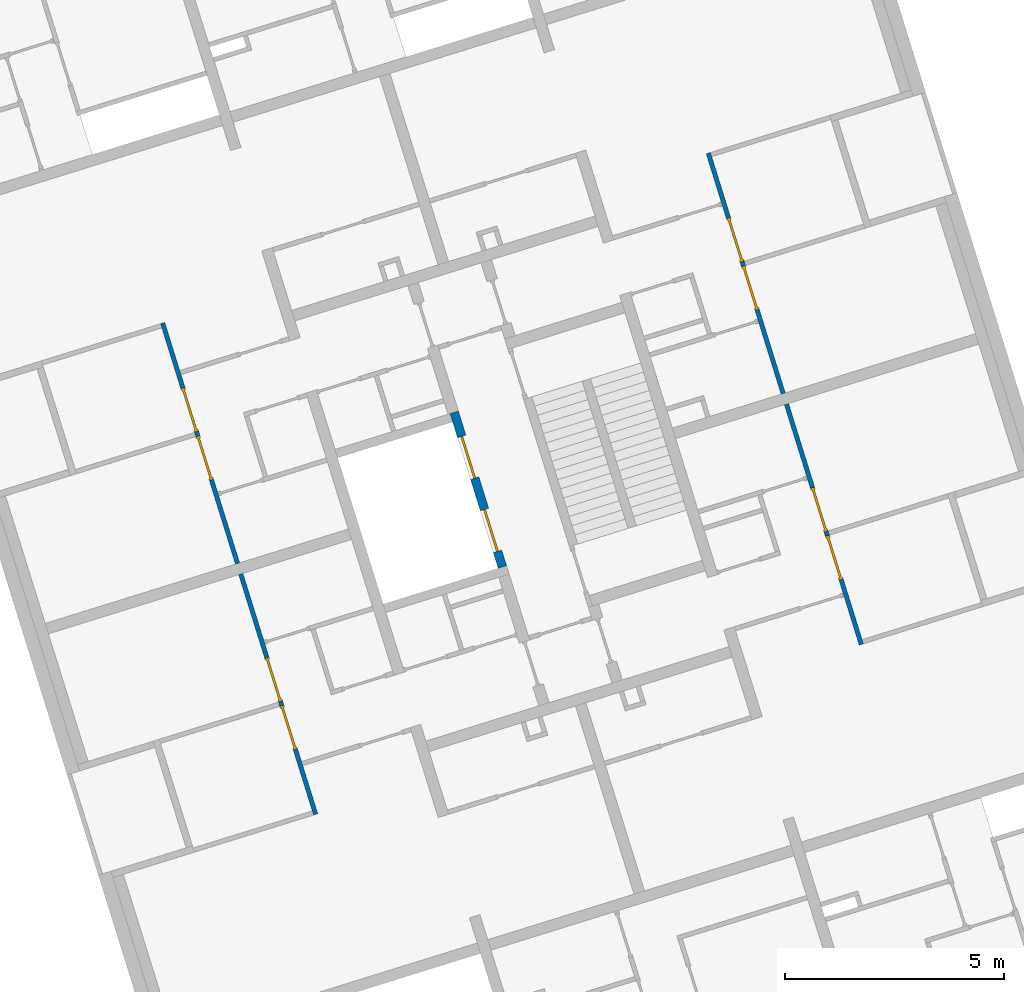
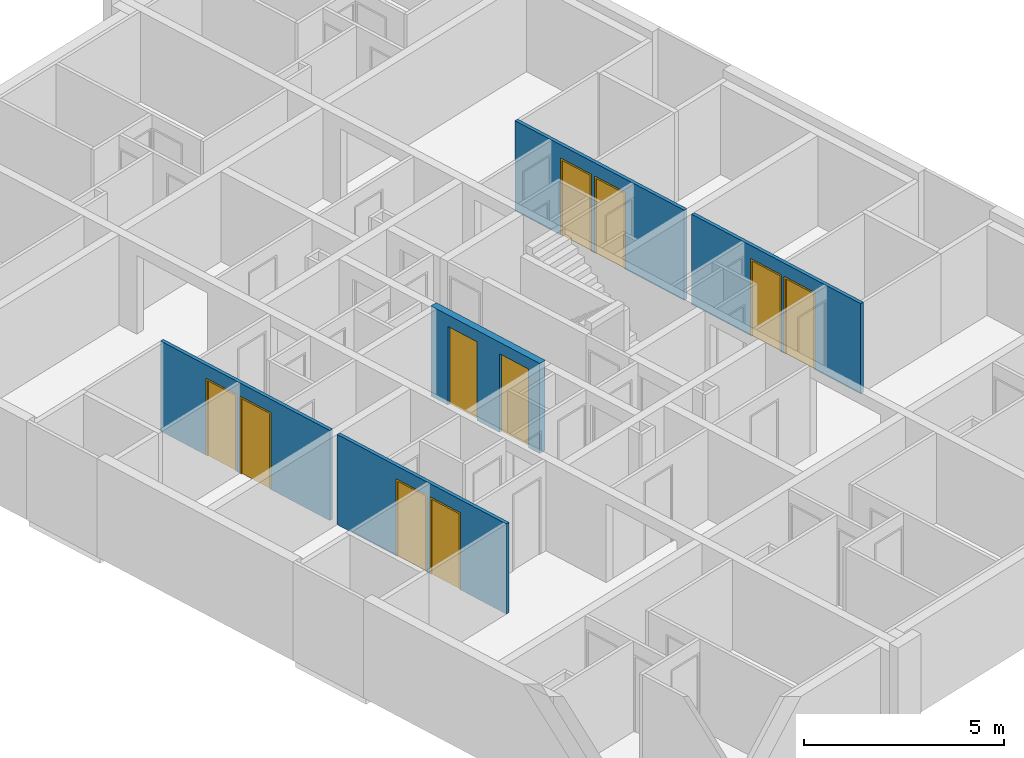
# One storey, part 11 of 12: 10 doors, 5 walls, 10 openings.
"""IFC4 building model written with IfcOpenShell, lengths in metres."""

from ifc_helpers import new_model, entity, si_unit, converted_unit, direction, frame, origin, place, context, subcontext, project, spatial, indexed_curve, outline, extrude, polygons, source, transform, mapped, material, constituent, constituent_set, type_object, type_shapes, element, fill, save


model = new_model("IFC4")

# Units and contexts
model_context = context("Model", 3, precision=1e-05, world=origin(), true_north=direction((6.12323399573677e-17, 1.0)))
body_context = subcontext(model_context, "Body", "Model", "MODEL_VIEW")
ifc_project = project(units=[si_unit("LENGTHUNIT", "METRE"), si_unit("AREAUNIT", "SQUARE_METRE"), si_unit("VOLUMEUNIT", "CUBIC_METRE"), converted_unit("PLANEANGLEUNIT", "DEGREE", entity("IfcPlaneAngleMeasure", 0.0174532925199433), si_unit("PLANEANGLEUNIT", "RADIAN"), dimensions=[0, 0, 0, 0, 0, 0, 0])], contexts=[model_context])

# Site, building, storey
site_placement = place(None, frame((13.1347999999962, 11.9886000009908, 0.0), z_axis=(0.0, 0.0, 1.0), x_axis=(0.954770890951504, 0.297342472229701, 0.0)))
site = spatial("IfcSite", under=ifc_project, at=site_placement, Name="Schiehaven", CompositionType="ELEMENT")
building_placement = place(site_placement, origin())
building = spatial("IfcBuilding", under=site, at=building_placement, Name="VORM huis", CompositionType="ELEMENT")
storey_placement = place(building_placement, frame((0.0, 0.0, 3.9)))
storey = spatial("IfcBuildingStorey", under=building, at=storey_placement, Name="01 eerste verdieping", CompositionType="ELEMENT", Elevation=3.9)

# Wall, openings, doors
ifc_material_1 = material(Name="beton_gewapend_prefab-element", Category="Miscellaneous")
wall_type_1 = type_object("IfcWallType", Name="Basic Wall:28_WA_skelet_wand 200mm_gen", PredefinedType="STANDARD")
wall_1_placement = place(storey_placement, frame((15.4750000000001, 15.3, 0.0), z_axis=(0.0, 0.0, 1.0), x_axis=(0.0, 1.0, 0.0)))
wall_1 = element("IfcWall", 1, at=wall_1_placement, inside=storey, type_object=wall_type_1, material=ifc_material_1, Name="Constructieve wand", ObjectType="Wand", PredefinedType="NOTDEFINED", context=body_context, shape_type="Tessellation", body=[
    polygons([(3.69999999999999, -0.100000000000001, 2.75), (0.0, -0.100000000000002, 2.75), (0.0, -0.100000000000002, -5.41433564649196e-16), (0.374999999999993, -0.0999999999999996, -5.41433564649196e-16), (0.374999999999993, -0.100000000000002, 2.39999999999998), (1.37499999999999, -0.100000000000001, 2.39999999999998), (1.37499999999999, -0.100000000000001, -5.41433564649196e-16), (2.125, -0.100000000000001, -5.41433564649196e-16), (2.125, -0.100000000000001, 2.39999999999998), (3.125, -0.100000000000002, 2.39999999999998), (3.12499999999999, -0.1, -5.41433564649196e-16), (3.69999999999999, -0.100000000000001, -5.41433564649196e-16), (2.16573425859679e-15, 0.0999999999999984, 2.75), (3.49999999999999, 0.0999999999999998, 2.75), (3.69999999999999, 0.0999999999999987, 2.75), (3.69999999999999, 0.0999999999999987, -5.41433564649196e-16), (3.49999999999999, 0.0999999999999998, 0.0), (3.125, 0.0999999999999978, -5.41433564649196e-16), (3.125, 0.0999999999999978, 2.39999999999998), (2.125, 0.0999999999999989, 2.39999999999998), (2.125, 0.0999999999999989, -5.41433564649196e-16), (1.37499999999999, 0.100000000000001, -5.41433564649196e-16), (1.37499999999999, 0.100000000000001, 2.39999999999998), (0.374999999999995, 0.0999999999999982, 2.39999999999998), (0.374999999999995, 0.0999999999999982, -5.41433564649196e-16), (0.0, 0.0999999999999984, -5.41433564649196e-16)], [[[1, 2, 3, 4, 5, 6, 7, 8, 9, 10, 11, 12]], [[13, 14, 15, 16, 17, 18, 19, 20, 21, 22, 23, 24, 25, 26]], [[3, 26, 25, 4]], [[2, 1, 15, 14, 13]], [[3, 2, 13, 26]], [[1, 12, 16, 15]], [[6, 23, 22, 7]], [[24, 5, 4, 25]], [[23, 6, 5, 24]], [[10, 19, 18, 11]], [[20, 9, 8, 21]], [[19, 10, 9, 20]], [[7, 22, 21, 8]], [[16, 12, 11, 18, 17]]], closed=True),
])
opening_1_placement = place(wall_1_placement, frame((-15.3, 15.4750000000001, 0.0), z_axis=(0.0, 0.0, 1.0), x_axis=(0.0, -1.0, 0.0)))
opening_1 = element("IfcOpeningElement", 2, at=opening_1_placement, cuts=wall_1, Name="Brandweerlift", PredefinedType="OPENING", context=body_context, shape_type="SweptSolid", body=[
    extrude(outline(indexed_curve([(-1.19999999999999, -0.499999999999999), (1.19999999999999, -0.499999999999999), (1.19999999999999, 0.500000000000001), (-1.19999999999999, 0.500000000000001), (-1.19999999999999, -0.499999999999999)], self_intersect=False)), frame((15.7436720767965, 16.175, 1.19999999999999), z_axis=(-1.0, 0.0, 0.0), x_axis=(0.0, 0.0, -1.0)), (0.0, 0.0, 1.0), 0.756310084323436),
])
opening_2_placement = place(wall_1_placement, frame((-15.3, 15.4750000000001, 0.0), z_axis=(0.0, 0.0, 1.0), x_axis=(0.0, -1.0, 0.0)))
opening_2 = element("IfcOpeningElement", 3, at=opening_2_placement, cuts=wall_1, Name="Brandweerlift", PredefinedType="OPENING", context=body_context, shape_type="SweptSolid", body=[
    extrude(outline(indexed_curve([(-1.19999999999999, -0.500000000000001), (1.19999999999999, -0.500000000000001), (1.19999999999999, 0.499999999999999), (-1.19999999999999, 0.499999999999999), (-1.19999999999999, -0.500000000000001)], self_intersect=False)), frame((15.7436720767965, 17.925, 1.19999999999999), z_axis=(-1.0, 0.0, 0.0), x_axis=(0.0, 0.0, -1.0)), (0.0, 0.0, 1.0), 0.756310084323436),
])
ifc_material_2 = material(Name="metaal_aluminium_ntb", Category="Miscellaneous")
door_type_1 = type_object("IfcDoorType", Name="66_WI_liftdeur:brandweerlift - tweezijdig toegankelijk", OperationType="NOTDEFINED", PredefinedType="DOOR", material=ifc_material_2)
shared_shape_1 = source(origin(), body_context, "Body", "SweptSolid", [
    extrude(outline(indexed_curve([(-0.0250000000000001, -0.25), (0.0249999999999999, -0.25), (0.0250000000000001, 0.25), (-0.0249999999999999, 0.25), (-0.0250000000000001, -0.25)], self_intersect=False)), frame((0.250000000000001, 0.487638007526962, 0.0), z_axis=(0.0, 0.0, 1.0), x_axis=(0.0, 1.0, 0.0)), (0.0, 0.0, 1.0), 2.39999999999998),
    extrude(outline(indexed_curve([(-0.0250000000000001, -0.25), (0.0249999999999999, -0.25), (0.0250000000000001, 0.25), (-0.0249999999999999, 0.25), (-0.0250000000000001, -0.25)], self_intersect=False)), frame((0.750000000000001, 0.48763800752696, 0.0), z_axis=(0.0, 0.0, 1.0), x_axis=(0.0, 1.0, 0.0)), (0.0, 0.0, 1.0), 2.39999999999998),
])
type_shapes(door_type_1, [shared_shape_1])
door_1_placement = place(opening_1_placement, frame((14.9873619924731, 16.675, 0.0), z_axis=(0.0, 0.0, 1.0), x_axis=(0.0, -1.0, 0.0)))
door_1 = element("IfcDoor", 4, at=door_1_placement, inside=storey, type_object=door_type_1, material=ifc_material_2, Name="Brandweerlift", ObjectType="Transport", OperationType="NOTDEFINED", OverallHeight=2.39999999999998, OverallWidth=1.0, PredefinedType="DOOR", context=body_context, shape_type="MappedRepresentation", body=[
    mapped(shared_shape_1, transform((0.0, 0.0, 0.0), scale=1.0)),
])
fill(opening_1, door_1)
door_2_placement = place(opening_2_placement, frame((14.9873619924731, 18.425, 0.0), z_axis=(0.0, 0.0, 1.0), x_axis=(0.0, -1.0, 0.0)))
door_2 = element("IfcDoor", 5, at=door_2_placement, inside=storey, type_object=door_type_1, material=ifc_material_2, Name="Brandweerlift", ObjectType="Transport", OperationType="NOTDEFINED", OverallHeight=2.39999999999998, OverallWidth=1.0, PredefinedType="DOOR", context=body_context, shape_type="MappedRepresentation", body=[
    mapped(shared_shape_1, transform((0.0, 0.0, 0.0), scale=1.0)),
])
fill(opening_2, door_2)

ifc_material_3 = material(Name="ntb_ntb_ntb", Category="Miscellaneous")
wall_type_2 = type_object("IfcWallType", Name="Basic Wall:22_WA_afbouw_binnenwand 100mm_gen", PredefinedType="STANDARD")
wall_2_placement = place(storey_placement, frame((9.72500000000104, 16.925, 0.0), z_axis=(0.0, 0.0, 1.0), x_axis=(0.0, -1.0, 0.0)))
wall_2 = element("IfcWall", 6, at=wall_2_placement, inside=storey, type_object=wall_type_2, material=ifc_material_3, Name="Binnenwand", ObjectType="Wand", PredefinedType="NOTDEFINED", context=body_context, shape_type="Tessellation", body=[
    polygons([(3.04999999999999, -0.0499999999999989, -5.41433564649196e-16), (3.15, -0.0499999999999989, -5.41433564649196e-16), (3.15, -0.0499999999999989, 2.34999999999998), (4.2, -0.0499999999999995, 2.34999999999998), (4.2, -0.0499999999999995, -5.41433564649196e-16), (5.65, -0.049999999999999, 0.0), (5.75, -0.0499999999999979, -5.41433564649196e-16), (5.75, -0.0499999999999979, 2.75), (5.65, -0.049999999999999, 2.75), (3.15, -0.0499999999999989, 2.75), (3.05, -0.0499999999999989, 2.75), (2.16573425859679e-15, -0.0499999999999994, 2.75), (2.16573425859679e-15, -0.0499999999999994, -5.41433564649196e-16), (2.0, -0.0499999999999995, -5.41433564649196e-16), (2.0, -0.0499999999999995, 2.34999999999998), (3.04999999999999, -0.0499999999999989, 2.34999999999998), (3.15, 0.05, 2.34999999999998), (3.14999999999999, 0.05, -5.41433564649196e-16), (3.04999999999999, 0.0500000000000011, -5.41433564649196e-16), (3.04999999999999, 0.0500000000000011, 2.34999999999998), (1.99999999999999, 0.0500000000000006, 2.34999999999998), (1.99999999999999, 0.0500000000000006, -5.41433564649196e-16), (1.70000000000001, 0.0500000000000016, 0.0), (1.60000000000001, 0.0500000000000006, 0.0), (0.0, 0.0500000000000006, -5.41433564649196e-16), (0.0, 0.0500000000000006, 2.75), (1.60000000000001, 0.0500000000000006, 2.75), (1.70000000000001, 0.0500000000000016, 2.75), (4.50000000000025, 0.0500000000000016, 2.75), (4.60000000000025, 0.0500000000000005, 2.75), (5.75, 0.0499999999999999, 2.75), (5.75, 0.0499999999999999, -5.41433564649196e-16), (4.60000000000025, 0.0500000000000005, 0.0), (4.50000000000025, 0.0500000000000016, 0.0), (4.2, 0.0500000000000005, -5.41433564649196e-16), (4.2, 0.0500000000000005, 2.34999999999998)], [[[1, 2, 3, 4, 5, 6, 7, 8, 9, 10, 11, 12, 13, 14, 15, 16]], [[17, 18, 19, 20, 21, 22, 23, 24, 25, 26, 27, 28, 29, 30, 31, 32, 33, 34, 35, 36]], [[13, 25, 24, 23, 22, 14]], [[12, 11, 10, 9, 8, 31, 30, 29, 28, 27, 26]], [[13, 12, 26, 25]], [[16, 20, 19, 1]], [[21, 15, 14, 22]], [[20, 16, 15, 21]], [[5, 4, 36, 35]], [[3, 2, 18, 17]], [[4, 3, 17, 36]], [[8, 7, 32, 31]], [[19, 18, 2, 1]], [[35, 34, 33, 32, 7, 6, 5]]], closed=True),
])
opening_3_placement = place(wall_2_placement, frame((2.0, -0.0500000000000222, 0.0)))
opening_3 = element("IfcOpeningElement", 7, at=opening_3_placement, cuts=wall_2, Name="Binnendeur", PredefinedType="OPENING", context=body_context, shape_type="SweptSolid", body=[
    extrude(outline(indexed_curve([(2.34999999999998, 1.05), (0.0, 1.05), (0.0, 1.35358391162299e-15), (2.34999999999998, 1.35358391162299e-15), (2.34999999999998, 1.05)], self_intersect=False)), frame((0.0, 0.0, 0.0), z_axis=(0.0, 1.0, 0.0), x_axis=(0.0, 0.0, 1.0)), (0.0, 0.0, 1.0), 0.1),
])
opening_4_placement = place(wall_2_placement, frame((3.15, -0.050000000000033, 0.0)))
opening_4 = element("IfcOpeningElement", 8, at=opening_4_placement, cuts=wall_2, Name="Binnendeur", PredefinedType="OPENING", context=body_context, shape_type="SweptSolid", body=[
    extrude(outline(indexed_curve([(2.34999999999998, 1.05), (0.0, 1.05), (0.0, 1.08286712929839e-15), (2.34999999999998, 1.08286712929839e-15), (2.34999999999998, 1.05)], self_intersect=False)), frame((0.0, 0.0, 0.0), z_axis=(0.0, 1.0, 0.0), x_axis=(0.0, 0.0, 1.0)), (0.0, 0.0, 1.0), 0.1),
])
ifc_material_4 = material(Name="PD_a_binnenwandopeningen", Category="Miscellaneous")
ifc_constituent_1 = constituent(ifc_material_4, Name="PD_a_binnenwandopeningen", Category="Miscellaneous")
ifc_constituent_2 = constituent(ifc_material_2, Name="metaal_aluminium_ntb", Category="Miscellaneous")
ifc_constituent_set_1 = constituent_set(constituents=[ifc_constituent_1, ifc_constituent_2])
door_type_2 = type_object("IfcDoorType", Name="32_DO_binnendeur enkel:binnendeur", OperationType="REVOLVING", PredefinedType="DOOR")
shared_shape_2 = source(origin(), body_context, "Body", "SweptSolid", [
    extrude(outline(indexed_curve([(-1.16249999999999, -0.525000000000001), (1.18749999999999, -0.525), (1.18749999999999, 0.525), (-1.16249999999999, 0.525), (-1.16249999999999, 0.475), (1.13749999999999, 0.475), (1.13749999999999, -0.475), (-1.16249999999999, -0.475), (-1.16249999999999, -0.525000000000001)], self_intersect=False)), frame((0.525000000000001, 0.0, 1.16249999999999), z_axis=(0.0, 1.0, 0.0), x_axis=(0.0, 0.0, 1.0)), (0.0, 0.0, 1.0), 0.1),
    extrude(outline(indexed_curve([(-0.025, -0.475), (0.025, -0.475), (0.025, 0.475), (-0.025, 0.475), (-0.025, -0.475)], self_intersect=False)), frame((0.525000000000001, 0.0499999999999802, 0.0), z_axis=(0.0, 0.0, 1.0), x_axis=(0.0, 1.0, 0.0)), (0.0, 0.0, 1.0), 2.29999999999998),
])
type_shapes(door_type_2, [shared_shape_2])
door_3_placement = place(opening_3_placement, origin())
door_3 = element("IfcDoor", 9, at=door_3_placement, inside=storey, type_object=door_type_2, material=ifc_constituent_set_1, Name="Binnendeur", ObjectType="Deur", OperationType="REVOLVING", OverallHeight=2.34999999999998, OverallWidth=1.05, PredefinedType="DOOR", context=body_context, shape_type="MappedRepresentation", body=[
    mapped(shared_shape_2, transform((0.0, 0.0, 0.0), scale=1.0)),
])
fill(opening_3, door_3)
ifc_constituent_3 = constituent(ifc_material_4, Name="PD_a_binnenwandopeningen", Category="Miscellaneous")
ifc_constituent_4 = constituent(ifc_material_2, Name="metaal_aluminium_ntb", Category="Miscellaneous")
ifc_constituent_set_2 = constituent_set(constituents=[ifc_constituent_3, ifc_constituent_4])
door_4_placement = place(opening_4_placement, origin())
door_4 = element("IfcDoor", 10, at=door_4_placement, inside=storey, type_object=door_type_2, material=ifc_constituent_set_2, Name="Binnendeur", ObjectType="Deur", OperationType="REVOLVING", OverallHeight=2.34999999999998, OverallWidth=1.05, PredefinedType="DOOR", context=body_context, shape_type="MappedRepresentation", body=[
    mapped(shared_shape_2, transform((0.0, 0.0, 0.0), scale=1.0)),
])
fill(opening_4, door_4)

wall_3_placement = place(storey_placement, frame((22.7749999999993, 16.925, 0.0), z_axis=(0.0, 0.0, 1.0), x_axis=(0.0, -1.0, 0.0)))
wall_3 = element("IfcWall", 11, at=wall_3_placement, inside=storey, type_object=wall_type_2, material=ifc_material_3, Name="Binnenwand", ObjectType="Wand", PredefinedType="NOTDEFINED", context=body_context, shape_type="Tessellation", body=[
    polygons([(3.04999999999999, -0.0499999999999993, -5.41433564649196e-16), (3.15, -0.0500000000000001, -5.41433564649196e-16), (3.15, -0.0500000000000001, 2.34999999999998), (4.2, -0.0499999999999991, 2.34999999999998), (4.2, -0.0499999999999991, -5.41433564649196e-16), (4.50000000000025, -0.0500000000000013, 0.0), (4.60000000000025, -0.0500000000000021, 0.0), (5.75, -0.0500000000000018, -5.41433564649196e-16), (5.75, -0.0500000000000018, 2.75), (4.60000000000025, -0.0500000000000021, 2.75), (4.50000000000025, -0.0500000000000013, 2.75), (1.8, -0.0499999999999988, 2.75), (1.70000000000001, -0.0500000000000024, 2.75), (-2.16573425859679e-15, -0.0499999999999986, 2.75), (-2.16573425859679e-15, -0.0499999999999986, -5.41433564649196e-16), (1.70000000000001, -0.0500000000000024, 0.0), (1.8, -0.0499999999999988, 0.0), (1.99999999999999, -0.0500000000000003, -5.41433564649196e-16), (1.99999999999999, -0.0500000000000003, 2.34999999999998), (3.04999999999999, -0.0499999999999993, 2.34999999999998), (3.15, 0.0499999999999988, 2.34999999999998), (3.15, 0.0499999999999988, -5.41433564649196e-16), (3.04999999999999, 0.0499999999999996, -5.41433564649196e-16), (3.04999999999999, 0.0499999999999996, 2.34999999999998), (1.99999999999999, 0.0499999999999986, 2.34999999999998), (1.99999999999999, 0.0499999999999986, -5.41433564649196e-16), (-2.16573425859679e-15, 0.0500000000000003, -5.41433564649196e-16), (-2.16573425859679e-15, 0.0500000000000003, 2.75), (3.05, 0.0499999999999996, 2.75), (3.15, 0.0499999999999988, 2.75), (5.65, 0.0499999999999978, 2.75), (5.75, 0.0499999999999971, 2.75), (5.74999999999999, 0.0499999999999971, -5.41433564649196e-16), (5.65, 0.0499999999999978, 0.0), (4.2, 0.0499999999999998, -5.41433564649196e-16), (4.2, 0.0499999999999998, 2.34999999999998)], [[[1, 2, 3, 4, 5, 6, 7, 8, 9, 10, 11, 12, 13, 14, 15, 16, 17, 18, 19, 20]], [[21, 22, 23, 24, 25, 26, 27, 28, 29, 30, 31, 32, 33, 34, 35, 36]], [[15, 27, 26, 18, 17, 16]], [[14, 13, 12, 11, 10, 9, 32, 31, 30, 29, 28]], [[15, 14, 28, 27]], [[20, 24, 23, 1]], [[25, 19, 18, 26]], [[24, 20, 19, 25]], [[5, 4, 36, 35]], [[3, 2, 22, 21]], [[4, 3, 21, 36]], [[9, 8, 33, 32]], [[23, 22, 2, 1]], [[35, 34, 33, 8, 7, 6, 5]]], closed=True),
])
opening_5_placement = place(wall_3_placement, frame((3.04999999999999, 0.0500000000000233, 0.0)))
opening_5 = element("IfcOpeningElement", 12, at=opening_5_placement, cuts=wall_3, Name="Binnendeur", PredefinedType="OPENING", context=body_context, shape_type="SweptSolid", body=[
    extrude(outline(indexed_curve([(2.34999999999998, 1.08286712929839e-15), (2.34999999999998, 1.05), (0.0, 1.05), (0.0, 1.08286712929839e-15), (2.34999999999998, 1.08286712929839e-15)], self_intersect=False)), frame((0.0, 0.0, 0.0), z_axis=(0.0, -1.0, 0.0), x_axis=(0.0, 0.0, 1.0)), (0.0, 0.0, 1.0), 0.1),
])
opening_6_placement = place(wall_3_placement, frame((4.2, 0.0500000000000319, 0.0)))
opening_6 = element("IfcOpeningElement", 13, at=opening_6_placement, cuts=wall_3, Name="Binnendeur", PredefinedType="OPENING", context=body_context, shape_type="SweptSolid", body=[
    extrude(outline(indexed_curve([(2.34999999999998, 1.08286712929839e-15), (2.34999999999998, 1.05), (0.0, 1.05), (0.0, 1.08286712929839e-15), (2.34999999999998, 1.08286712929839e-15)], self_intersect=False)), frame((0.0, 0.0, 0.0), z_axis=(0.0, -1.0, 0.0), x_axis=(0.0, 0.0, 1.0)), (0.0, 0.0, 1.0), 0.1),
])
ifc_constituent_5 = constituent(ifc_material_4, Name="PD_a_binnenwandopeningen", Category="Miscellaneous")
ifc_constituent_6 = constituent(ifc_material_2, Name="metaal_aluminium_ntb", Category="Miscellaneous")
ifc_constituent_set_3 = constituent_set(constituents=[ifc_constituent_5, ifc_constituent_6])
shared_shape_3 = source(origin(), body_context, "Body", "SweptSolid", [
    extrude(outline(indexed_curve([(0.475, -1.16249999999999), (0.525, -1.16249999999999), (0.525, 1.18749999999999), (-0.525, 1.18749999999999), (-0.525, -1.16249999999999), (-0.475, -1.16249999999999), (-0.475, 1.13749999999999), (0.475, 1.13749999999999), (0.475, -1.16249999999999)], self_intersect=False)), frame((0.525000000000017, 0.100000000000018, 1.16249999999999), z_axis=(0.0, -1.0, 0.0), x_axis=(1.0, 0.0, 0.0)), (0.0, 0.0, 1.0), 0.1),
    extrude(outline(indexed_curve([(-0.475, -0.025), (0.475, -0.025), (0.475, 0.025), (-0.475, 0.025), (-0.475, -0.025)], self_intersect=False)), frame((0.525000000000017, 0.0499999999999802, 0.0)), (0.0, 0.0, 1.0), 2.29999999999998),
])
door_5_placement = place(opening_5_placement, frame((0.0, 0.0, 0.0), z_axis=(0.0, 0.0, 1.0), x_axis=(-1.0, 0.0, 0.0)))
door_5 = element("IfcDoor", 14, at=door_5_placement, inside=storey, type_object=door_type_2, material=ifc_constituent_set_3, Name="Binnendeur", ObjectType="Deur", OperationType="REVOLVING", OverallHeight=2.34999999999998, OverallWidth=1.05, PredefinedType="DOOR", context=body_context, shape_type="MappedRepresentation", body=[
    mapped(shared_shape_3, transform((0.0, 0.0, 0.0), scale=1.0)),
])
fill(opening_5, door_5)
ifc_constituent_7 = constituent(ifc_material_4, Name="PD_a_binnenwandopeningen", Category="Miscellaneous")
ifc_constituent_8 = constituent(ifc_material_2, Name="metaal_aluminium_ntb", Category="Miscellaneous")
ifc_constituent_set_4 = constituent_set(constituents=[ifc_constituent_7, ifc_constituent_8])
door_6_placement = place(opening_6_placement, frame((0.0, 0.0, 0.0), z_axis=(0.0, 0.0, 1.0), x_axis=(-1.0, 0.0, 0.0)))
door_6 = element("IfcDoor", 15, at=door_6_placement, inside=storey, type_object=door_type_2, material=ifc_constituent_set_4, Name="Binnendeur", ObjectType="Deur", OperationType="REVOLVING", OverallHeight=2.34999999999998, OverallWidth=1.05, PredefinedType="DOOR", context=body_context, shape_type="MappedRepresentation", body=[
    mapped(shared_shape_3, transform((0.0, 0.0, 0.0), scale=1.0)),
])
fill(opening_6, door_6)

wall_4_placement = place(storey_placement, frame((22.7749999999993, 17.175, 0.0), z_axis=(0.0, 0.0, 1.0), x_axis=(0.0, 1.0, 0.0)))
wall_4 = element("IfcWall", 16, at=wall_4_placement, inside=storey, type_object=wall_type_2, material=ifc_material_3, Name="Binnenwand", ObjectType="Wand", PredefinedType="NOTDEFINED", context=body_context, shape_type="Tessellation", body=[
    polygons([(3.05, -0.0499999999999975, -5.41433564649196e-16), (3.15, -0.0499999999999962, -5.41433564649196e-16), (3.15, -0.0499999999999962, 2.34999999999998), (4.2, -0.0499999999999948, 2.34999999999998), (4.2, -0.0499999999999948, -5.41433564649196e-16), (5.65, -0.0499999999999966, 0.0), (5.75, -0.0499999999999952, -5.41433564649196e-16), (5.75, -0.0499999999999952, 2.75), (5.65, -0.0499999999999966, 2.75), (3.15, -0.0499999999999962, 2.75), (3.05, -0.0499999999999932, 2.75), (-2.16573425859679e-15, -0.049999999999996, 2.75), (-2.16573425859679e-15, -0.049999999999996, -5.41433564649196e-16), (1.99999999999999, -0.0499999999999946, -5.41433564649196e-16), (1.99999999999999, -0.0499999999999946, 2.34999999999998), (3.05, -0.0499999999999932, 2.34999999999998), (3.15, 0.0500000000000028, 2.34999999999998), (3.15, 0.0500000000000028, -5.41433564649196e-16), (3.05, 0.0500000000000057, -5.41433564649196e-16), (3.05, 0.0500000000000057, 2.34999999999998), (1.99999999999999, 0.0500000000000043, 2.34999999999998), (1.99999999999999, 0.0500000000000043, -5.41433564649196e-16), (1.80000000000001, 0.0500000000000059, 0.0), (1.70000000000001, 0.0500000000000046, 0.0), (2.16573425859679e-15, 0.0500000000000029, -5.41433564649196e-16), (2.16573425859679e-15, 0.0500000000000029, 2.75), (1.70000000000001, 0.0500000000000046, 2.75), (1.80000000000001, 0.0500000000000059, 2.75), (4.50000000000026, 0.0500000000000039, 2.75), (4.60000000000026, 0.0500000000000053, 2.75), (5.75, 0.0500000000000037, 2.75), (5.75, 0.0500000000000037, -5.41433564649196e-16), (4.60000000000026, 0.0500000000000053, 0.0), (4.50000000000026, 0.0500000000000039, 0.0), (4.2, 0.0500000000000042, -5.41433564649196e-16), (4.2, 0.0500000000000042, 2.34999999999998)], [[[1, 2, 3, 4, 5, 6, 7, 8, 9, 10, 11, 12, 13, 14, 15, 16]], [[17, 18, 19, 20, 21, 22, 23, 24, 25, 26, 27, 28, 29, 30, 31, 32, 33, 34, 35, 36]], [[13, 25, 24, 23, 22, 14]], [[12, 11, 10, 9, 8, 31, 30, 29, 28, 27, 26]], [[13, 12, 26, 25]], [[16, 20, 19, 1]], [[21, 15, 14, 22]], [[20, 16, 15, 21]], [[5, 4, 36, 35]], [[3, 2, 18, 17]], [[4, 3, 17, 36]], [[8, 7, 32, 31]], [[19, 18, 2, 1]], [[35, 34, 33, 32, 7, 6, 5]]], closed=True),
])
opening_7_placement = place(wall_4_placement, frame((2.0, -0.0500000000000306, 0.0)))
opening_7 = element("IfcOpeningElement", 17, at=opening_7_placement, cuts=wall_4, Name="Binnendeur", PredefinedType="OPENING", context=body_context, shape_type="SweptSolid", body=[
    extrude(outline(indexed_curve([(2.34999999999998, 1.05), (0.0, 1.05), (0.0, -4.04341507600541e-29), (2.34999999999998, -4.04341507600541e-29), (2.34999999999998, 1.05)], self_intersect=False)), frame((0.0, 0.0, 0.0), z_axis=(0.0, 1.0, 0.0), x_axis=(0.0, 0.0, 1.0)), (0.0, 0.0, 1.0), 0.1),
])
opening_8_placement = place(wall_4_placement, frame((3.15, -0.0500000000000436, 0.0)))
opening_8 = element("IfcOpeningElement", 18, at=opening_8_placement, cuts=wall_4, Name="Binnendeur", PredefinedType="OPENING", context=body_context, shape_type="SweptSolid", body=[
    extrude(outline(indexed_curve([(2.34999999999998, 1.05), (0.0, 1.05), (0.0, -4.03182935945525e-29), (2.34999999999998, -4.03182935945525e-29), (2.34999999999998, 1.05)], self_intersect=False)), frame((0.0, 0.0, 0.0), z_axis=(0.0, 1.0, 0.0), x_axis=(0.0, 0.0, 1.0)), (0.0, 0.0, 1.0), 0.1),
])
ifc_constituent_9 = constituent(ifc_material_4, Name="PD_a_binnenwandopeningen", Category="Miscellaneous")
ifc_constituent_10 = constituent(ifc_material_2, Name="metaal_aluminium_ntb", Category="Miscellaneous")
ifc_constituent_set_5 = constituent_set(constituents=[ifc_constituent_9, ifc_constituent_10])
door_7_placement = place(opening_7_placement, origin())
door_7 = element("IfcDoor", 19, at=door_7_placement, inside=storey, type_object=door_type_2, material=ifc_constituent_set_5, Name="Binnendeur", ObjectType="Deur", OperationType="REVOLVING", OverallHeight=2.34999999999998, OverallWidth=1.05, PredefinedType="DOOR", context=body_context, shape_type="MappedRepresentation", body=[
    mapped(shared_shape_2, transform((0.0, 0.0, 0.0), scale=1.0)),
])
fill(opening_7, door_7)
ifc_constituent_11 = constituent(ifc_material_4, Name="PD_a_binnenwandopeningen", Category="Miscellaneous")
ifc_constituent_12 = constituent(ifc_material_2, Name="metaal_aluminium_ntb", Category="Miscellaneous")
ifc_constituent_set_6 = constituent_set(constituents=[ifc_constituent_11, ifc_constituent_12])
door_8_placement = place(opening_8_placement, origin())
door_8 = element("IfcDoor", 20, at=door_8_placement, inside=storey, type_object=door_type_2, material=ifc_constituent_set_6, Name="Binnendeur", ObjectType="Deur", OperationType="REVOLVING", OverallHeight=2.34999999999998, OverallWidth=1.05, PredefinedType="DOOR", context=body_context, shape_type="MappedRepresentation", body=[
    mapped(shared_shape_2, transform((0.0, 0.0, 0.0), scale=1.0)),
])
fill(opening_8, door_8)

wall_5_placement = place(storey_placement, frame((9.72500000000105, 17.175, 0.0), z_axis=(0.0, 0.0, 1.0), x_axis=(0.0, 1.0, 0.0)))
wall_5 = element("IfcWall", 21, at=wall_5_placement, inside=storey, type_object=wall_type_2, material=ifc_material_3, Name="Binnenwand", ObjectType="Wand", PredefinedType="NOTDEFINED", context=body_context, shape_type="Tessellation", body=[
    polygons([(3.05, -0.0500000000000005, -5.41433564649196e-16), (3.14999999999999, -0.0500000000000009, -5.41433564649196e-16), (3.14999999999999, -0.0500000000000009, 2.34999999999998), (4.2, -0.0500000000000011, 2.34999999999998), (4.2, -0.0500000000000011, -5.41433564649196e-16), (4.50000000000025, -0.0500000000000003, 0.0), (4.60000000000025, -0.0500000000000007, 0.0), (5.74999999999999, -0.0500000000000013, -5.41433564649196e-16), (5.74999999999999, -0.0500000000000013, 2.75), (4.60000000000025, -0.0500000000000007, 2.75), (4.50000000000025, -0.0500000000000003, 2.75), (1.7, -0.0500000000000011, 2.75), (1.6, -0.0500000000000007, 2.75), (-2.16573425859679e-15, -0.0500000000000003, 2.75), (-2.16573425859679e-15, -0.0500000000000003, -5.41433564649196e-16), (1.6, -0.0500000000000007, 0.0), (1.7, -0.0500000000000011, 0.0), (1.99999999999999, -0.0500000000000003, -5.41433564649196e-16), (1.99999999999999, -0.0500000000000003, 2.34999999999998), (3.04999999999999, -0.0500000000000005, 2.34999999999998), (3.15, 0.0500000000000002, 2.34999999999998), (3.15, 0.0500000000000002, -5.41433564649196e-16), (3.04999999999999, 0.0500000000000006, -5.41433564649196e-16), (3.04999999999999, 0.0500000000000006, 2.34999999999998), (1.99999999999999, 0.0499999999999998, 2.34999999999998), (1.99999999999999, 0.0499999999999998, -5.41433564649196e-16), (0.0, 0.0499999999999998, -5.41433564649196e-16), (0.0, 0.0499999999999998, 2.75), (3.05, 0.0500000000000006, 2.75), (3.15, 0.0500000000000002, 2.75), (5.65, 0.0500000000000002, 2.75), (5.74999999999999, 0.0500000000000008, 2.75), (5.74999999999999, 0.0500000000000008, -5.41433564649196e-16), (5.65, 0.0500000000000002, 0.0), (4.2, 0.05, -5.41433564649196e-16), (4.2, 0.05, 2.34999999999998)], [[[1, 2, 3, 4, 5, 6, 7, 8, 9, 10, 11, 12, 13, 14, 15, 16, 17, 18, 19, 20]], [[21, 22, 23, 24, 25, 26, 27, 28, 29, 30, 31, 32, 33, 34, 35, 36]], [[15, 27, 26, 18, 17, 16]], [[14, 13, 12, 11, 10, 9, 32, 31, 30, 29, 28]], [[15, 14, 28, 27]], [[20, 24, 23, 1]], [[25, 19, 18, 26]], [[24, 20, 19, 25]], [[5, 4, 36, 35]], [[3, 2, 22, 21]], [[4, 3, 21, 36]], [[9, 8, 33, 32]], [[23, 22, 2, 1]], [[35, 34, 33, 8, 7, 6, 5]]], closed=True),
])
opening_9_placement = place(wall_5_placement, frame((3.04999999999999, 0.0500000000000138, 0.0)))
opening_9 = element("IfcOpeningElement", 22, at=opening_9_placement, cuts=wall_5, Name="Binnendeur", PredefinedType="OPENING", context=body_context, shape_type="SweptSolid", body=[
    extrude(outline(indexed_curve([(2.34999999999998, 9.53057015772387e-31), (2.34999999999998, 1.05), (0.0, 1.05), (0.0, 9.53057015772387e-31), (2.34999999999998, 9.53057015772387e-31)], self_intersect=False)), frame((0.0, 0.0, 0.0), z_axis=(0.0, -1.0, 0.0), x_axis=(0.0, 0.0, 1.0)), (0.0, 0.0, 1.0), 0.1),
])
opening_10_placement = place(wall_5_placement, frame((4.2, 0.0500000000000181, 0.0)))
opening_10 = element("IfcOpeningElement", 23, at=opening_10_placement, cuts=wall_5, Name="Binnendeur", PredefinedType="OPENING", context=body_context, shape_type="SweptSolid", body=[
    extrude(outline(indexed_curve([(2.34999999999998, 9.53057015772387e-31), (2.34999999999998, 1.05), (0.0, 1.05), (0.0, 9.53057015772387e-31), (2.34999999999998, 9.53057015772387e-31)], self_intersect=False)), frame((0.0, 0.0, 0.0), z_axis=(0.0, -1.0, 0.0), x_axis=(0.0, 0.0, 1.0)), (0.0, 0.0, 1.0), 0.1),
])
ifc_constituent_13 = constituent(ifc_material_4, Name="PD_a_binnenwandopeningen", Category="Miscellaneous")
ifc_constituent_14 = constituent(ifc_material_2, Name="metaal_aluminium_ntb", Category="Miscellaneous")
ifc_constituent_set_7 = constituent_set(constituents=[ifc_constituent_13, ifc_constituent_14])
door_9_placement = place(opening_9_placement, frame((0.0, 0.0, 0.0), z_axis=(0.0, 0.0, 1.0), x_axis=(-1.0, 0.0, 0.0)))
door_9 = element("IfcDoor", 24, at=door_9_placement, inside=storey, type_object=door_type_2, material=ifc_constituent_set_7, Name="Binnendeur", ObjectType="Deur", OperationType="REVOLVING", OverallHeight=2.34999999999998, OverallWidth=1.05, PredefinedType="DOOR", context=body_context, shape_type="MappedRepresentation", body=[
    mapped(shared_shape_3, transform((0.0, 0.0, 0.0), scale=1.0)),
])
fill(opening_9, door_9)
ifc_constituent_15 = constituent(ifc_material_4, Name="PD_a_binnenwandopeningen", Category="Miscellaneous")
ifc_constituent_16 = constituent(ifc_material_2, Name="metaal_aluminium_ntb", Category="Miscellaneous")
ifc_constituent_set_8 = constituent_set(constituents=[ifc_constituent_15, ifc_constituent_16])
door_10_placement = place(opening_10_placement, frame((0.0, 0.0, 0.0), z_axis=(0.0, 0.0, 1.0), x_axis=(-1.0, 0.0, 0.0)))
door_10 = element("IfcDoor", 25, at=door_10_placement, inside=storey, type_object=door_type_2, material=ifc_constituent_set_8, Name="Binnendeur", ObjectType="Deur", OperationType="REVOLVING", OverallHeight=2.34999999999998, OverallWidth=1.05, PredefinedType="DOOR", context=body_context, shape_type="MappedRepresentation", body=[
    mapped(shared_shape_3, transform((0.0, 0.0, 0.0), scale=1.0)),
])
fill(opening_10, door_10)

save(model, "model.ifc")
